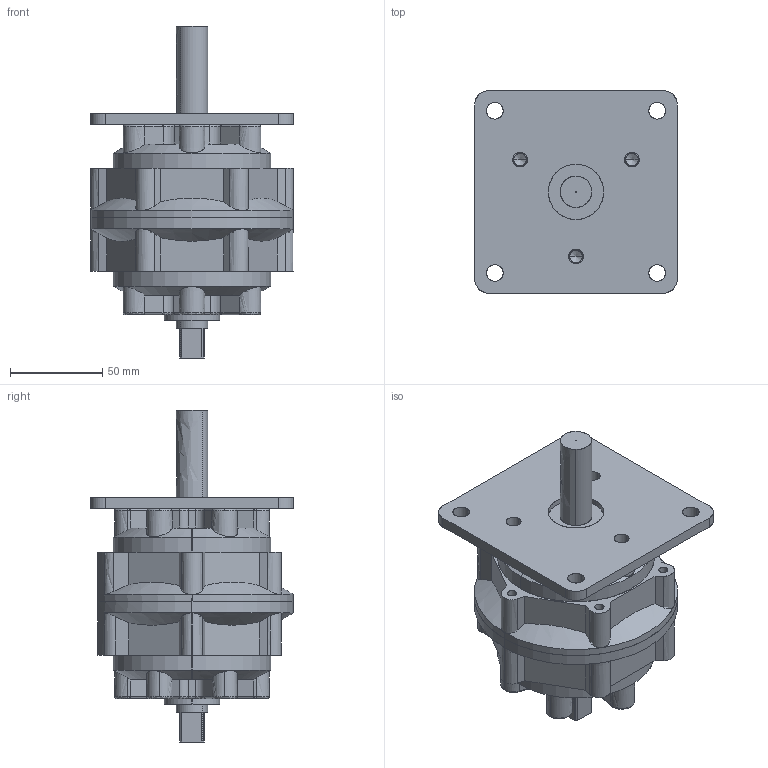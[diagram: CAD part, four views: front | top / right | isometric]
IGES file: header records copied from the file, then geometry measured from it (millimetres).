
Start section: SolidWorks IGES file using analytic representation for surfaces
Global section: file name: C:\Users\Chieh_Lu\Dropbox\¤u§@«Ç\PRN50-150-300-800\PRN150\PRN150\PRN150#-#-#-P.IGS; native system: SolidWorks 2014; preprocessor: SolidWorks 2014; author: Chieh_Lu; date: 160115.004213; units: millimetre
Bounding box: 110 x 110 x 180 mm (x, y, z)
Surface area: 122497.7 mm2 (no closed solid volume)
Topology: 0 solids, 0 shells, 511 faces, 6995 edges, 6967 vertices
Faces by surface type: revolution 272, bspline 239
